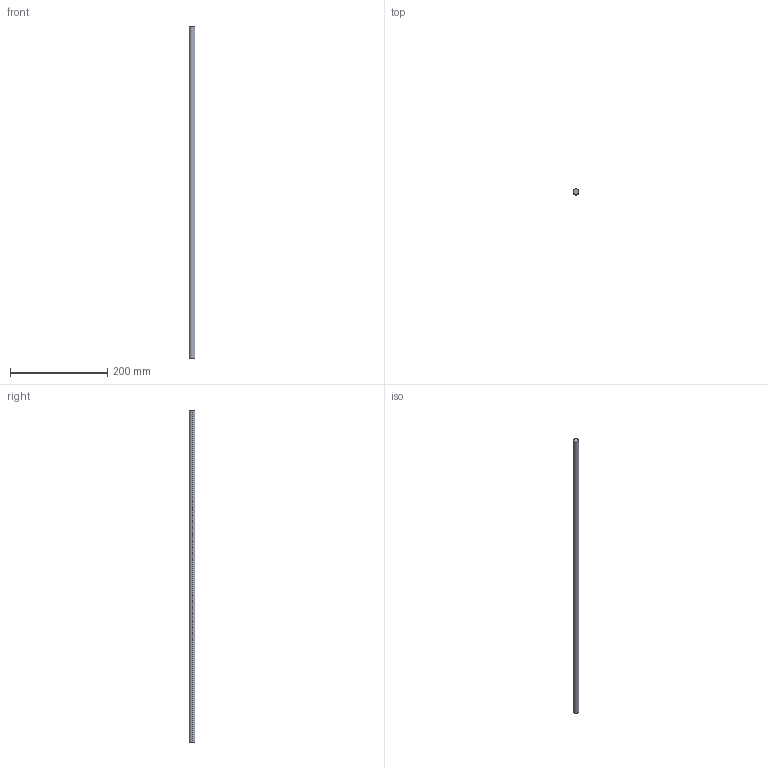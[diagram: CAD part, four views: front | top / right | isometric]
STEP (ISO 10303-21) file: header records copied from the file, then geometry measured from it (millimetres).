
FILE_DESCRIPTION (( 'STEP AP214' ), '1' );
FILE_NAME ('Innenschub H182 - S18_S19 - 800.step', '2010-09-07T14:56:03', ( 'grass' ), ( '' ), 'SwSTEP 2.0', 'SolidWorks 2010', '' );
FILE_SCHEMA (( 'AUTOMOTIVE_DESIGN' ));
Length unit declared in the file: millimetre
Products named in the file (1): Innenschub H182 - S18_S19 - 800
Bounding box: 12 x 12 x 683 mm (x, y, z)
Volume: 77245.5 mm3; surface area: 25974.7 mm2
Topology: 1 solids, 1 shells, 4 faces, 6 edges, 4 vertices
Faces by surface type: cylinder 2, plane 2
Entity records: 128 total; most frequent: DIRECTION 20, CARTESIAN_POINT 15, ORIENTED_EDGE 12, AXIS2_PLACEMENT_3D 9, EDGE_CURVE 6, VERTEX_POINT 4, EDGE_LOOP 4, FACE_OUTER_BOUND 4
